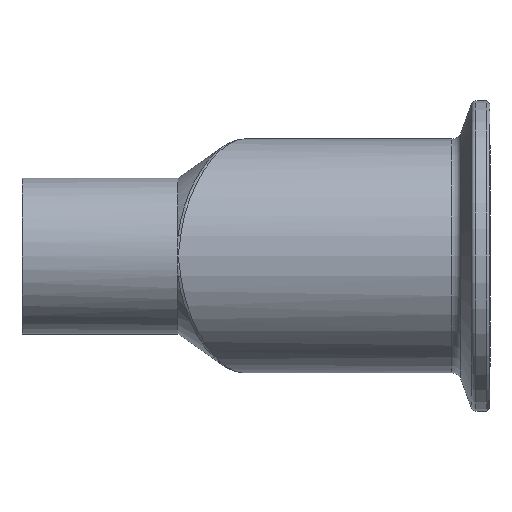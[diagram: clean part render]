
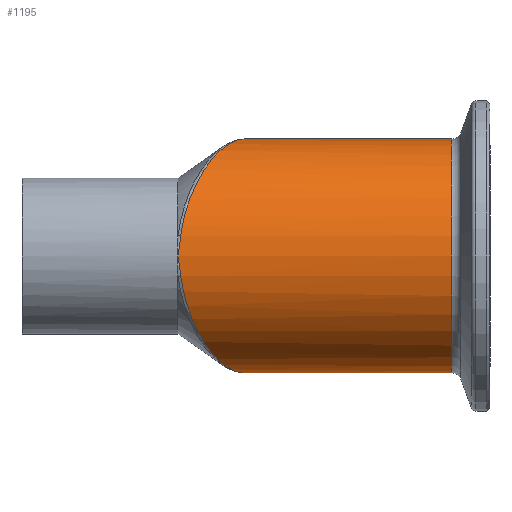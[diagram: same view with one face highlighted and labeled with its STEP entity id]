
A CAD part, front view. The second image highlights one B-rep face of the part: STEP entity #1195.
In plain terms, the highlighted cylindrical face has radius 19.05 mm (diameter 38.1 mm), a partial arc.
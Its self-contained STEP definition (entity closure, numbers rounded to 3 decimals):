
#29 = CARTESIAN_POINT ( 'NONE',  ( -12.248, -18.77, 3.256 ) ) ;
#36 = VERTEX_POINT ( 'NONE', #271 ) ;
#38 = B_SPLINE_CURVE_WITH_KNOTS ( 'NONE', 3,
 ( #1242, #1421, #1124, #1097, #1089, #186, #1114, #1069, #1083, #1075, #1060, #958, #1826, #953, #916, #969, #1035, #743, #813, #923, #903, #896, #809, #890 ),
 .UNSPECIFIED., .F., .F.,
 ( 4, 2, 2, 2, 2, 2, 2, 2, 2, 2, 2, 4 ),
 ( 0., 0.004, 0.005, 0.007, 0.011, 0.013, 0.014, 0.018, 0.021, 0.025, 0.027, 0.029 ),
 .UNSPECIFIED. ) ;
#45 = CARTESIAN_POINT ( 'NONE',  ( -12.383, -18.957, 2.177 ) ) ;
#72 = EDGE_CURVE ( 'NONE', #832, #1712, #1637, .T. ) ;
#89 = ORIENTED_EDGE ( 'NONE', *, *, #415, .T. ) ;
#121 = DIRECTION ( 'NONE',  ( -1., 0., 0. ) ) ;
#124 = FACE_OUTER_BOUND ( 'NONE', #1027, .T. ) ;
#135 = CARTESIAN_POINT ( 'NONE',  ( -12.541, -19.05, 1.092 ) ) ;
#177 = B_SPLINE_CURVE_WITH_KNOTS ( 'NONE', 3,
 ( #29, #45, #135, #626 ),
 .UNSPECIFIED., .F., .F.,
 ( 4, 4 ),
 ( 0., 0.003 ),
 .UNSPECIFIED. ) ;
#186 = CARTESIAN_POINT ( 'NONE',  ( -10.961, -16.918, -8.775 ) ) ;
#214 = EDGE_CURVE ( 'NONE', #1735, #222, #1849, .T. ) ;
#222 = VERTEX_POINT ( 'NONE', #1972 ) ;
#257 = VERTEX_POINT ( 'NONE', #1946 ) ;
#271 = CARTESIAN_POINT ( 'NONE',  ( -12.248, -18.77, -3.256 ) ) ;
#293 = EDGE_CURVE ( 'NONE', #865, #36, #806, .T. ) ;
#299 = DIRECTION ( 'NONE',  ( 0., 0., 1. ) ) ;
#306 = DIRECTION ( 'NONE',  ( -1., 0., 0. ) ) ;
#308 = CARTESIAN_POINT ( 'NONE',  ( -12.316, -18.863, -2.717 ) ) ;
#323 = CARTESIAN_POINT ( 'NONE',  ( -12.7, -19.05, 0. ) ) ;
#386 = CARTESIAN_POINT ( 'NONE',  ( 31.873, 0., 0. ) ) ;
#415 = EDGE_CURVE ( 'NONE', #36, #1712, #38, .T. ) ;
#437 = CARTESIAN_POINT ( 'NONE',  ( -1.851, 0., -19.05 ) ) ;
#440 = CARTESIAN_POINT ( 'NONE',  ( -47.684, 0., 19.05 ) ) ;
#542 = DIRECTION ( 'NONE',  ( 0., 0., 1. ) ) ;
#549 = CARTESIAN_POINT ( 'NONE',  ( -47.684, 0., 0. ) ) ;
#577 = EDGE_CURVE ( 'NONE', #222, #257, #1734, .T. ) ;
#601 = ORIENTED_EDGE ( 'NONE', *, *, #577, .T. ) ;
#617 = CARTESIAN_POINT ( 'NONE',  ( -1.851, 0., 19.05 ) ) ;
#622 = DIRECTION ( 'NONE',  ( -1., 0., 0. ) ) ;
#626 = CARTESIAN_POINT ( 'NONE',  ( -12.7, -19.05, 0. ) ) ;
#636 = CIRCLE ( 'NONE', #1198, 19.05 ) ;
#743 = CARTESIAN_POINT ( 'NONE',  ( -4.371, -5.359, -18.312 ) ) ;
#758 = CARTESIAN_POINT ( 'NONE',  ( -2.096, -0.544, 19.05 ) ) ;
#783 = CARTESIAN_POINT ( 'NONE',  ( -2.344, -1.087, 19.027 ) ) ;
#806 = B_SPLINE_CURVE_WITH_KNOTS ( 'NONE', 3,
 ( #1793, #1853, #1713, #1705, #308, #1699 ),
 .UNSPECIFIED., .F., .F.,
 ( 4, 2, 4 ),
 ( 0., 0.002, 0.003 ),
 .UNSPECIFIED. ) ;
#809 = CARTESIAN_POINT ( 'NONE',  ( -2.095, -0.542, -19.05 ) ) ;
#813 = CARTESIAN_POINT ( 'NONE',  ( -3.861, -4.317, -18.586 ) ) ;
#821 = AXIS2_PLACEMENT_3D ( 'NONE', #549, #622, #542 ) ;
#832 = VERTEX_POINT ( 'NONE', #1913 ) ;
#833 = EDGE_CURVE ( 'NONE', #257, #865, #177, .T. ) ;
#865 = VERTEX_POINT ( 'NONE', #323 ) ;
#890 = CARTESIAN_POINT ( 'NONE',  ( -1.851, 0., -19.05 ) ) ;
#896 = CARTESIAN_POINT ( 'NONE',  ( -2.342, -1.083, -19.027 ) ) ;
#900 = CARTESIAN_POINT ( 'NONE',  ( -2.846, -2.174, 18.933 ) ) ;
#903 = CARTESIAN_POINT ( 'NONE',  ( -2.842, -2.166, -18.934 ) ) ;
#912 = CARTESIAN_POINT ( 'NONE',  ( -3.1, -2.718, 18.863 ) ) ;
#913 = ORIENTED_EDGE ( 'NONE', *, *, #72, .F. ) ;
#916 = CARTESIAN_POINT ( 'NONE',  ( -6.932, -10.27, -16.082 ) ) ;
#919 = CARTESIAN_POINT ( 'NONE',  ( -3.863, -4.322, 18.585 ) ) ;
#923 = CARTESIAN_POINT ( 'NONE',  ( -3.096, -2.709, -18.864 ) ) ;
#926 = CARTESIAN_POINT ( 'NONE',  ( -4.373, -5.363, 18.311 ) ) ;
#933 = CARTESIAN_POINT ( 'NONE',  ( -5.141, -6.882, 17.771 ) ) ;
#939 = CYLINDRICAL_SURFACE ( 'NONE', #821, 19.05 ) ;
#953 = CARTESIAN_POINT ( 'NONE',  ( -7.433, -11.168, -15.472 ) ) ;
#958 = CARTESIAN_POINT ( 'NONE',  ( -8.403, -12.844, -14.079 ) ) ;
#969 = CARTESIAN_POINT ( 'NONE',  ( -5.906, -8.367, -17.149 ) ) ;
#1027 = EDGE_LOOP ( 'NONE', ( #913, #1916, #1883, #601, #1031, #1436, #89 ) ) ;
#1031 = ORIENTED_EDGE ( 'NONE', *, *, #833, .T. ) ;
#1035 = CARTESIAN_POINT ( 'NONE',  ( -5.394, -7.384, -17.594 ) ) ;
#1038 = VECTOR ( 'NONE', #121, 1000. ) ;
#1042 = DIRECTION ( 'NONE',  ( -1., 0., 0. ) ) ;
#1060 = CARTESIAN_POINT ( 'NONE',  ( -8.875, -13.636, -13.314 ) ) ;
#1066 = CARTESIAN_POINT ( 'NONE',  ( -5.397, -7.382, 17.57 ) ) ;
#1069 = CARTESIAN_POINT ( 'NONE',  ( -10.205, -15.774, -10.742 ) ) ;
#1073 = CARTESIAN_POINT ( 'NONE',  ( -5.91, -8.367, 17.123 ) ) ;
#1075 = CARTESIAN_POINT ( 'NONE',  ( -9.107, -14.019, -12.91 ) ) ;
#1083 = CARTESIAN_POINT ( 'NONE',  ( -9.784, -15.116, -11.647 ) ) ;
#1089 = CARTESIAN_POINT ( 'NONE',  ( -11.3, -17.42, -7.733 ) ) ;
#1097 = CARTESIAN_POINT ( 'NONE',  ( -11.456, -17.646, -7.2 ) ) ;
#1114 = CARTESIAN_POINT ( 'NONE',  ( -10.779, -16.646, -9.281 ) ) ;
#1124 = CARTESIAN_POINT ( 'NONE',  ( -11.878, -18.254, -5.57 ) ) ;
#1153 = VECTOR ( 'NONE', #1042, 1000. ) ;
#1195 = ADVANCED_FACE ( 'NONE', ( #124 ), #939, .T. ) ;
#1198 = AXIS2_PLACEMENT_3D ( 'NONE', #386, #306, #299 ) ;
#1208 = CARTESIAN_POINT ( 'NONE',  ( -6.169, -8.854, 16.876 ) ) ;
#1215 = CARTESIAN_POINT ( 'NONE',  ( -6.935, -10.276, 16.078 ) ) ;
#1225 = CARTESIAN_POINT ( 'NONE',  ( -7.434, -11.17, 15.47 ) ) ;
#1236 = CARTESIAN_POINT ( 'NONE',  ( -8.404, -12.853, 14.102 ) ) ;
#1242 = CARTESIAN_POINT ( 'NONE',  ( -12.248, -18.77, -3.256 ) ) ;
#1297 = CARTESIAN_POINT ( 'NONE',  ( -47.684, 0., -19.05 ) ) ;
#1364 = CARTESIAN_POINT ( 'NONE',  ( -8.875, -13.643, 13.343 ) ) ;
#1394 = CARTESIAN_POINT ( 'NONE',  ( -9.553, -14.742, 12.078 ) ) ;
#1399 = CARTESIAN_POINT ( 'NONE',  ( -9.772, -15.091, 11.639 ) ) ;
#1408 = CARTESIAN_POINT ( 'NONE',  ( -10.191, -15.749, 10.732 ) ) ;
#1421 = CARTESIAN_POINT ( 'NONE',  ( -12.1, -18.565, -4.439 ) ) ;
#1436 = ORIENTED_EDGE ( 'NONE', *, *, #293, .T. ) ;
#1517 = CARTESIAN_POINT ( 'NONE',  ( -10.392, -16.058, 10.264 ) ) ;
#1524 = CARTESIAN_POINT ( 'NONE',  ( -10.773, -16.638, 9.295 ) ) ;
#1530 = CARTESIAN_POINT ( 'NONE',  ( -10.954, -16.908, 8.794 ) ) ;
#1536 = CARTESIAN_POINT ( 'NONE',  ( -11.292, -17.408, 7.759 ) ) ;
#1550 = CARTESIAN_POINT ( 'NONE',  ( -11.45, -17.638, 7.222 ) ) ;
#1555 = CARTESIAN_POINT ( 'NONE',  ( -11.877, -18.253, 5.577 ) ) ;
#1637 = LINE ( 'NONE', #1297, #1153 ) ;
#1671 = CARTESIAN_POINT ( 'NONE',  ( -12.1, -18.564, 4.439 ) ) ;
#1676 = CARTESIAN_POINT ( 'NONE',  ( -12.248, -18.77, 3.256 ) ) ;
#1699 = CARTESIAN_POINT ( 'NONE',  ( -12.248, -18.77, -3.256 ) ) ;
#1705 = CARTESIAN_POINT ( 'NONE',  ( -12.389, -18.933, -2.175 ) ) ;
#1712 = VERTEX_POINT ( 'NONE', #437 ) ;
#1713 = CARTESIAN_POINT ( 'NONE',  ( -12.542, -19.027, -1.09 ) ) ;
#1734 = B_SPLINE_CURVE_WITH_KNOTS ( 'NONE', 3,
 ( #617, #758, #783, #900, #912, #919, #926, #933, #1066, #1073, #1208, #1215, #1225, #1236, #1364, #1394, #1399, #1408, #1517, #1524, #1530, #1536, #1550, #1555, #1671, #1676 ),
 .UNSPECIFIED., .F., .F.,
 ( 4, 2, 2, 2, 2, 2, 2, 2, 2, 2, 2, 2, 4 ),
 ( 0.091, 0.092, 0.094, 0.098, 0.1, 0.101, 0.105, 0.109, 0.11, 0.112, 0.114, 0.116, 0.119 ),
 .UNSPECIFIED. ) ;
#1735 = VERTEX_POINT ( 'NONE', #1770 ) ;
#1750 = EDGE_CURVE ( 'NONE', #832, #1735, #636, .T. ) ;
#1770 = CARTESIAN_POINT ( 'NONE',  ( 31.873, 0., 19.05 ) ) ;
#1793 = CARTESIAN_POINT ( 'NONE',  ( -12.7, -19.05, 0. ) ) ;
#1826 = CARTESIAN_POINT ( 'NONE',  ( -8.163, -12.435, -14.442 ) ) ;
#1849 = LINE ( 'NONE', #440, #1038 ) ;
#1853 = CARTESIAN_POINT ( 'NONE',  ( -12.621, -19.05, -0.544 ) ) ;
#1883 = ORIENTED_EDGE ( 'NONE', *, *, #214, .T. ) ;
#1913 = CARTESIAN_POINT ( 'NONE',  ( 31.873, 0., -19.05 ) ) ;
#1916 = ORIENTED_EDGE ( 'NONE', *, *, #1750, .T. ) ;
#1946 = CARTESIAN_POINT ( 'NONE',  ( -12.248, -18.77, 3.256 ) ) ;
#1972 = CARTESIAN_POINT ( 'NONE',  ( -1.851, 0., 19.05 ) ) ;
